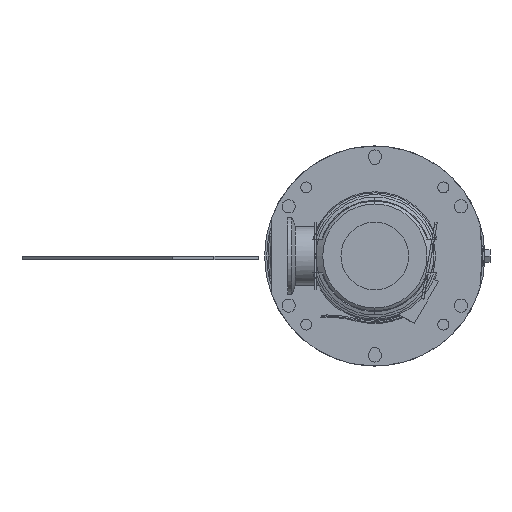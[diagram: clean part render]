
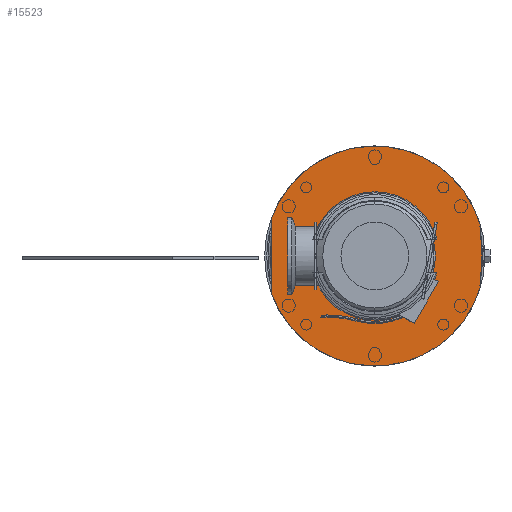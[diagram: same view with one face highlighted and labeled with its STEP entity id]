
A CAD part, front view. The second image highlights one B-rep face of the part: STEP entity #15523.
In plain terms, the highlighted planar face has unit normal (0, -1, 0).
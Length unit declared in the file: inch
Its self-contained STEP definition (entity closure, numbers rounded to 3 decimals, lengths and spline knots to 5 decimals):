
#11550=DIRECTION('',(0.,0.,-1.));
#11551=VECTOR('',#11550,1.96125);
#11552=CARTESIAN_POINT('',(-2.66,-0.875,0.98062));
#11553=LINE('',#11552,#11551);
#11554=CARTESIAN_POINT('',(0.,-0.875,0.));
#11555=DIRECTION('',(0.,1.,0.));
#11556=DIRECTION('',(-0.938,0.,0.346));
#11557=AXIS2_PLACEMENT_3D('',#11554,#11555,#11556);
#11559=CARTESIAN_POINT('',(2.68733,-0.875,0.80393));
#11560=DIRECTION('',(0.,1.,0.));
#11561=DIRECTION('',(0.958,0.,0.287));
#11562=AXIS2_PLACEMENT_3D('',#11559,#11560,#11561);
#11564=CARTESIAN_POINT('',(2.68733,-0.875,-0.80393));
#11565=DIRECTION('',(0.,1.,0.));
#11566=DIRECTION('',(0.999,0.,-0.052));
#11567=AXIS2_PLACEMENT_3D('',#11564,#11565,#11566);
#11569=CARTESIAN_POINT('',(0.,-0.875,0.));
#11570=DIRECTION('',(0.,1.,0.));
#11571=DIRECTION('',(0.958,0.,-0.287));
#11572=AXIS2_PLACEMENT_3D('',#11569,#11570,#11571);
#12876=DIRECTION('',(-0.052,0.,0.999));
#12877=VECTOR('',#12876,0.8066);
#12878=CARTESIAN_POINT('',(2.7595,-0.875,0.));
#12879=LINE('',#12878,#12877);
#12922=DIRECTION('',(0.052,0.,0.999));
#12923=VECTOR('',#12922,0.8066);
#12924=CARTESIAN_POINT('',(2.71729,-0.875,-0.8055));
#12925=LINE('',#12924,#12923);
#14560=CARTESIAN_POINT('',(-2.66,-0.875,-0.98062));
#14561=VERTEX_POINT('',#14560);
#14562=CARTESIAN_POINT('',(-2.66,-0.875,0.98062));
#14563=VERTEX_POINT('',#14562);
#14584=CARTESIAN_POINT('',(2.71607,-0.875,-0.81253));
#14585=VERTEX_POINT('',#14584);
#14586=CARTESIAN_POINT('',(2.71607,-0.875,0.81253));
#14587=VERTEX_POINT('',#14586);
#14814=CARTESIAN_POINT('',(2.7595,-0.875,0.));
#14815=CARTESIAN_POINT('',(2.71729,-0.875,0.8055));
#14816=VERTEX_POINT('',#14814);
#14817=VERTEX_POINT('',#14815);
#14818=CARTESIAN_POINT('',(2.71729,-0.875,-0.8055));
#14819=VERTEX_POINT('',#14818);
#15504=CARTESIAN_POINT('',(0.,-0.875,0.));
#15505=DIRECTION('',(0.,-1.,0.));
#15506=DIRECTION('',(-1.,0.,0.));
#15507=AXIS2_PLACEMENT_3D('',#15504,#15505,#15506);
#15508=PLANE('',#15507);
#15510=ORIENTED_EDGE('',*,*,#15509,.F.);
#15511=ORIENTED_EDGE('',*,*,#15037,.T.);
#15513=ORIENTED_EDGE('',*,*,#15512,.T.);
#15515=ORIENTED_EDGE('',*,*,#15514,.F.);
#15517=ORIENTED_EDGE('',*,*,#15516,.F.);
#15519=ORIENTED_EDGE('',*,*,#15518,.T.);
#15520=ORIENTED_EDGE('',*,*,#15019,.T.);
#15521=EDGE_LOOP('',(#15510,#15511,#15513,#15515,#15517,#15519,#15520));
#15522=FACE_OUTER_BOUND('',#15521,.F.);
#15523=ADVANCED_FACE('',(#15522),#15508,.T.);
#11558=CIRCLE('',#11557,2.835);
#11563=CIRCLE('',#11562,0.03);
#11568=CIRCLE('',#11567,0.03);
#11573=CIRCLE('',#11572,2.835);
#15019=EDGE_CURVE('',#14585,#14561,#11573,.T.);
#15037=EDGE_CURVE('',#14563,#14587,#11558,.T.);
#15509=EDGE_CURVE('',#14563,#14561,#11553,.T.);
#15512=EDGE_CURVE('',#14587,#14817,#11563,.T.);
#15514=EDGE_CURVE('',#14816,#14817,#12879,.T.);
#15516=EDGE_CURVE('',#14819,#14816,#12925,.T.);
#15518=EDGE_CURVE('',#14819,#14585,#11568,.T.);
